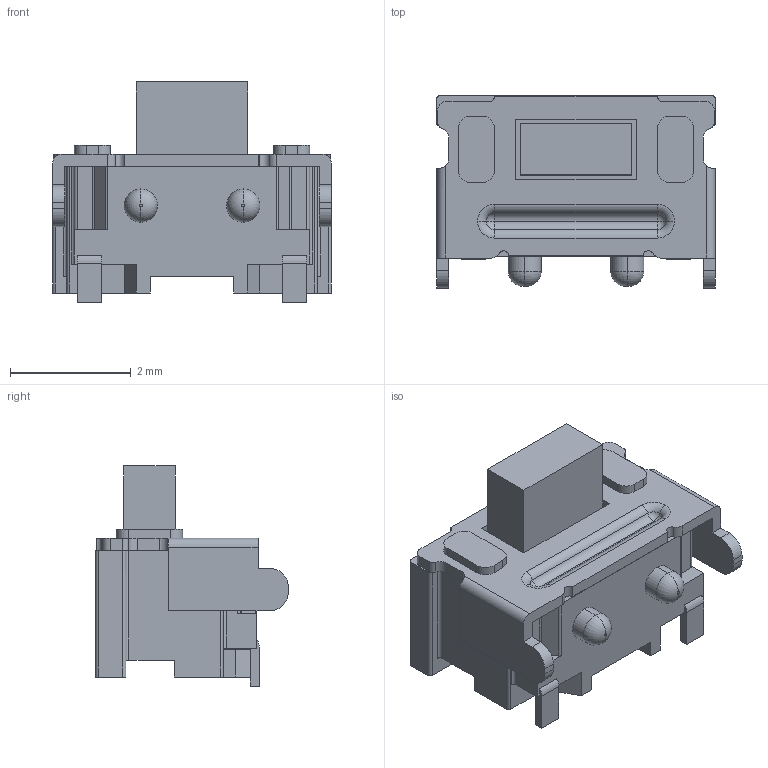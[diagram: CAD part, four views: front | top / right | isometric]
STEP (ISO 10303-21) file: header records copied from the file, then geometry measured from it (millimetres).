
FILE_DESCRIPTION (( 'STEP AP203' ), '1' );
FILE_NAME ('GT-TA022X-HXXX-LX.STEP', '2025-06-07T01:55:01', ( '' ), ( '' ), 'SwSTEP 2.0', 'SolidWorks 2023', '' );
FILE_SCHEMA (( 'CONFIG_CONTROL_DESIGN' ));
Length unit declared in the file: millimetre
Products named in the file (1): GT-TA022X-HXXX-LX
Bounding box: 4.62 x 3.19 x 3.65 mm (x, y, z)
Volume: 19.7 mm3; surface area: 110.7 mm2
Topology: 1 solids, 3 shells, 470 faces, 1281 edges, 846 vertices
Faces by surface type: plane 328, bspline 74, cylinder 56, torus 8, sphere 4
Entity records: 18338 total; most frequent: CARTESIAN_POINT 6770, ORIENTED_EDGE 2554, DIRECTION 2059, EDGE_CURVE 1277, LINE 989, VECTOR 989, VERTEX_POINT 846, AXIS2_PLACEMENT_3D 535
